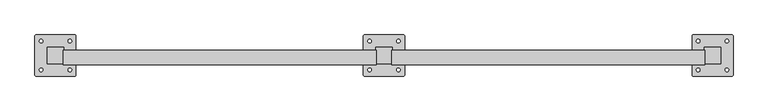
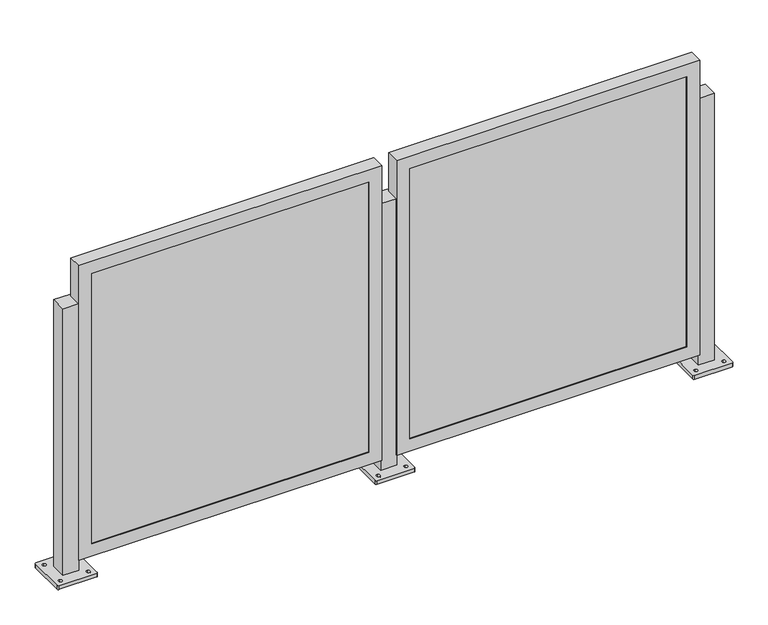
"""IFC4 building model written with IfcOpenShell, lengths in millimetres: railing geometry."""

from ifc_helpers import new_model, si_unit, frame, origin, place, context, project, spatial, polyline, circle_curve, outline, extrude, faceted_brep, source, transform, mapped, element, save
from ifc_brep_helpers import plane_surface, cylinder_surface, revolved_surface, advanced_brep


def railing_f4ae32ae(model_context):
    return source(origin(), model_context, "Body", "SolidModel", [
        advanced_brep(
        [(-11254.5258502, -853.9049816, 914.4), (-11254.5258502, -904.7049816, 914.4), (-11203.7258502, -904.7049816, 914.4), (-11203.7258502, -853.9049816, 914.4), (-11292.6258503, -939.6299405, 0.0), (-11292.6258503, -818.9800226, 0.0), (-11289.4508222, -815.8049944, 0.0), (-11168.8008782, -815.8049944, 0.0), (-11165.62585, -818.9800226, 0.0), (-11165.62585, -939.6299405, 0.0), (-11168.8008782, -942.8049687, 0.0), (-11289.4508222, -942.8049687, 0.0), (-11273.5758377, -929.3112362, 0.0), (-11273.5758377, -918.1987238, 0.0), (-11273.5758486, -840.4112318, 0.0), (-11273.5758486, -829.2987502, 0.0), (-11184.6758368, -929.3112347, 0.0), (-11184.6758368, -918.198724, 0.0), (-11184.6758477, -840.4112303, 0.0), (-11184.6758477, -829.2987505, 0.0), (-11254.5258502, -853.9049816, 12.7), (-11254.5258502, -904.7049816, 12.7), (-11203.7258502, -904.7049816, 12.7), (-11203.7258502, -853.9049816, 12.7), (-11292.6258503, -939.6299405, 12.7), (-11289.4508222, -942.8049687, 12.7), (-11168.8008782, -942.8049687, 12.7), (-11165.62585, -939.6299405, 12.7), (-11165.62585, -818.9800226, 12.7), (-11168.8008782, -815.8049944, 12.7), (-11289.4508222, -815.8049944, 12.7), (-11292.6258503, -818.9800226, 12.7), (-11273.5758377, -929.3112362, 12.7), (-11273.5758377, -918.1987238, 12.7), (-11273.5758486, -840.4112318, 12.7), (-11273.5758486, -829.2987502, 12.7), (-11184.6758368, -929.3112347, 12.7), (-11184.6758368, -918.198724, 12.7), (-11184.6758477, -840.4112303, 12.7), (-11184.6758477, -829.2987505, 12.7)],
        [
            (0, 1),
            (1, 2),
            (2, 3),
            (3, 0),
            (4, 5),
            (5, 6, circle_curve(frame((-11289.4508222, -818.9800226, 0.0), z_axis=(0.0, 0.0, -1.0), x_axis=(0.0, 1.0, 0.0)), 3.1750282)),
            (6, 7),
            (7, 8, circle_curve(frame((-11168.8008782, -818.9800226, 0.0), z_axis=(0.0, 0.0, -1.0), x_axis=(0.0, 1.0, 0.0)), 3.1750282)),
            (8, 9),
            (9, 10, circle_curve(frame((-11168.8008782, -939.6299405, 0.0), z_axis=(0.0, 0.0, -1.0), x_axis=(0.0, 1.0, 0.0)), 3.1750282)),
            (10, 11),
            (11, 4, circle_curve(frame((-11289.4508222, -939.6299405, 0.0), z_axis=(0.0, 0.0, -1.0), x_axis=(0.0, 1.0, 0.0)), 3.1750282)),
            (12, 13, circle_curve(frame((-11273.5758377, -923.75498, 0.0), z_axis=(0.0, 0.0, 1.0), x_axis=(0.0, 1.0, 0.0)), 5.5562562)),
            (13, 12, circle_curve(frame((-11273.5758377, -923.75498, 0.0), z_axis=(0.0, 0.0, 1.0), x_axis=(0.0, 1.0, 0.0)), 5.5562562)),
            (14, 15, circle_curve(frame((-11273.5758486, -834.854991, 0.0), z_axis=(0.0, 0.0, 1.0), x_axis=(0.0, 1.0, 0.0)), 5.5562408)),
            (15, 14, circle_curve(frame((-11273.5758486, -834.854991, 0.0), z_axis=(0.0, 0.0, 1.0), x_axis=(0.0, 1.0, 0.0)), 5.5562408)),
            (16, 17, circle_curve(frame((-11184.6758368, -923.7549793, 0.0), z_axis=(0.0, 0.0, 1.0), x_axis=(0.0, 1.0, 0.0)), 5.5562553)),
            (17, 16, circle_curve(frame((-11184.6758368, -923.7549793, 0.0), z_axis=(0.0, 0.0, 1.0), x_axis=(0.0, 1.0, 0.0)), 5.5562553)),
            (18, 19, circle_curve(frame((-11184.6758477, -834.8549904, 0.0), z_axis=(0.0, 0.0, 1.0), x_axis=(0.0, 1.0, 0.0)), 5.5562399)),
            (19, 18, circle_curve(frame((-11184.6758477, -834.8549904, 0.0), z_axis=(0.0, 0.0, 1.0), x_axis=(0.0, 1.0, 0.0)), 5.5562399)),
            (0, 20),
            (20, 21),
            (21, 1),
            (21, 22),
            (22, 2),
            (22, 23),
            (23, 3),
            (23, 20),
            (24, 25, circle_curve(frame((-11289.4508222, -939.6299405, 12.7), z_axis=(0.0, 0.0, 1.0), x_axis=(0.0, 1.0, 0.0)), 3.1750282)),
            (25, 26),
            (26, 27, circle_curve(frame((-11168.8008782, -939.6299405, 12.7), z_axis=(0.0, 0.0, 1.0), x_axis=(0.0, 1.0, 0.0)), 3.1750282)),
            (27, 28),
            (28, 29, circle_curve(frame((-11168.8008782, -818.9800226, 12.7), z_axis=(0.0, 0.0, 1.0), x_axis=(0.0, 1.0, 0.0)), 3.1750282)),
            (29, 30),
            (30, 31, circle_curve(frame((-11289.4508222, -818.9800226, 12.7), z_axis=(0.0, 0.0, 1.0), x_axis=(0.0, 1.0, 0.0)), 3.1750282)),
            (31, 24),
            (32, 33, circle_curve(frame((-11273.5758377, -923.75498, 12.7), z_axis=(0.0, 0.0, -1.0), x_axis=(0.0, 1.0, 0.0)), 5.5562562)),
            (33, 32, circle_curve(frame((-11273.5758377, -923.75498, 12.7), z_axis=(0.0, 0.0, -1.0), x_axis=(0.0, 1.0, 0.0)), 5.5562562)),
            (34, 35, circle_curve(frame((-11273.5758486, -834.854991, 12.7), z_axis=(0.0, 0.0, -1.0), x_axis=(0.0, 1.0, 0.0)), 5.5562408)),
            (35, 34, circle_curve(frame((-11273.5758486, -834.854991, 12.7), z_axis=(0.0, 0.0, -1.0), x_axis=(0.0, 1.0, 0.0)), 5.5562408)),
            (36, 37, circle_curve(frame((-11184.6758368, -923.7549793, 12.7), z_axis=(0.0, 0.0, -1.0), x_axis=(0.0, 1.0, 0.0)), 5.5562553)),
            (37, 36, circle_curve(frame((-11184.6758368, -923.7549793, 12.7), z_axis=(0.0, 0.0, -1.0), x_axis=(0.0, 1.0, 0.0)), 5.5562553)),
            (38, 39, circle_curve(frame((-11184.6758477, -834.8549904, 12.7), z_axis=(0.0, 0.0, -1.0), x_axis=(0.0, 1.0, 0.0)), 5.5562399)),
            (39, 38, circle_curve(frame((-11184.6758477, -834.8549904, 12.7), z_axis=(0.0, 0.0, -1.0), x_axis=(0.0, 1.0, 0.0)), 5.5562399)),
            (24, 4),
            (11, 25),
            (10, 26),
            (9, 27),
            (8, 28),
            (7, 29),
            (6, 30),
            (5, 31),
            (32, 12),
            (13, 33),
            (34, 14),
            (15, 35),
            (36, 16),
            (17, 37),
            (38, 18),
            (19, 39),
        ],
        [
            plane_surface(frame((-11254.5258502, -904.7049816, 914.4), z_axis=(0.0, 0.0, 1.0), x_axis=(0.0, -1.0, 0.0))),
            plane_surface(frame((-11254.5258502, -904.7049816, 0.0), z_axis=(0.0, 0.0, -1.0), x_axis=(0.0, 1.0, 0.0))),
            plane_surface(frame((-11254.5258502, -853.9049816, 914.4), z_axis=(-1.0, 0.0, 0.0), x_axis=(0.0, 0.0, -1.0))),
            plane_surface(frame((-11254.5258502, -904.7049816, 914.4), z_axis=(0.0, -1.0, 0.0), x_axis=(0.0, 0.0, -1.0))),
            plane_surface(frame((-11203.7258502, -904.7049816, 914.4), z_axis=(1.0, 0.0, 0.0), x_axis=(0.0, 0.0, -1.0))),
            plane_surface(frame((-11203.7258502, -853.9049816, 914.4), z_axis=(0.0, 1.0, 0.0), x_axis=(0.0, 0.0, -1.0))),
            plane_surface(frame((-11289.4508222, -936.4549124, 12.7), z_axis=(0.0, 0.0, 1.0), x_axis=(-1.0, 0.0, 0.0))),
            cylinder_surface(frame((-11289.4508222, -939.6299405, 0.0), z_axis=(0.0, 0.0, 1.0), x_axis=(0.0, 1.0, 0.0)), 3.1750282),
            plane_surface(frame((-11289.4508222, -942.8049687, 12.7), z_axis=(1.1945386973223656e-12, -1.0, 0.0), x_axis=(0.0, 0.0, -1.0))),
            cylinder_surface(frame((-11168.8008782, -939.6299405, 0.0), z_axis=(0.0, 0.0, 1.0), x_axis=(0.0, 1.0, 0.0)), 3.1750282),
            plane_surface(frame((-11165.62585, -939.6299405, 12.7), z_axis=(1.0, 0.0, 0.0), x_axis=(0.0, 0.0, -1.0))),
            cylinder_surface(frame((-11168.8008782, -818.9800226, 0.0), z_axis=(0.0, 0.0, 1.0), x_axis=(0.0, 1.0, 0.0)), 3.1750282),
            plane_surface(frame((-11168.8008782, -815.8049944, 12.7), z_axis=(-1.1946088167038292e-12, 1.0, 0.0), x_axis=(0.0, 0.0, -1.0))),
            cylinder_surface(frame((-11289.4508222, -818.9800226, 0.0), z_axis=(0.0, 0.0, 1.0), x_axis=(0.0, 1.0, 0.0)), 3.1750282),
            plane_surface(frame((-11292.6258503, -818.9800226, 12.7), z_axis=(-1.0, 0.0, 0.0), x_axis=(0.0, 0.0, -1.0))),
            revolved_surface(polyline([(-11273.5758377, -918.1987238, 0.0), (-11273.5758377, -918.1987238, 12.7)]), (-11273.5758377, -923.75498, 0.0), (0.0, 0.0, -1.0)),
            revolved_surface(polyline([(-11273.5758486, -829.2987502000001, 0.0), (-11273.5758486, -829.2987502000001, 12.7)]), (-11273.5758486, -834.854991, 0.0), (0.0, 0.0, -1.0)),
            revolved_surface(polyline([(-11184.6758368, -918.198724, 0.0), (-11184.6758368, -918.198724, 12.7)]), (-11184.6758368, -923.7549793, 0.0), (0.0, 0.0, -1.0)),
            revolved_surface(polyline([(-11184.6758477, -829.2987505, 0.0), (-11184.6758477, -829.2987505, 12.7)]), (-11184.6758477, -834.8549904, 0.0), (0.0, 0.0, -1.0)),
        ],
        [
            (0, [[1, 2, 3, 4]]),
            (1, [[5, 6, 7, 8, 9, 10, 11, 12], [13, 14], [15, 16], [17, 18], [19, 20]]),
            (2, [[-1, 21, 22, 23]]),
            (3, [[-2, -23, 24, 25]]),
            (4, [[-3, -25, 26, 27]]),
            (5, [[-4, -27, 28, -21]]),
            (6, [[29, 30, 31, 32, 33, 34, 35, 36], [-22, -28, -26, -24], [37, 38], [39, 40], [41, 42], [43, 44]]),
            (7, [[-29, 45, -12, 46]]),
            (8, [[-30, -46, -11, 47]]),
            (9, [[-31, -47, -10, 48]]),
            (10, [[-32, -48, -9, 49]]),
            (11, [[-33, -49, -8, 50]]),
            (12, [[-34, -50, -7, 51]]),
            (13, [[-35, -51, -6, 52]]),
            (14, [[-36, -52, -5, -45]]),
            (15, [[-37, 53, -14, 54]]),
            (15, [[-38, -54, -13, -53]]),
            (16, [[-39, 55, -16, 56]]),
            (16, [[-40, -56, -15, -55]]),
            (17, [[-41, 57, -18, 58]]),
            (17, [[-42, -58, -17, -57]]),
            (18, [[-43, 59, -20, 60]]),
            (18, [[-44, -60, -19, -59]]),
        ],
    ),
        faceted_brep([(-12220.9303036, -907.4481816, 47.625), (-11252.5553036, -907.4481816, 47.625), (-11252.5553036, -907.4481816, 1044.575), (-12220.9303036, -907.4481816, 1044.575), (-12179.6553036, -907.4481816, 1003.3), (-11293.8303036, -907.4481816, 1003.3), (-11293.8303036, -907.4481816, 88.9), (-12179.6553036, -907.4481816, 88.9), (-12179.6553036, -904.7049816, 1003.3), (-12179.6553036, -904.7049816, 88.9), (-12220.9303036, -863.574885, 1044.575), (-12220.9303036, -863.574885, 47.625), (-12217.7553036, -863.574885, 1041.4), (-12217.7553036, -904.7049816, 1041.4), (-12217.7553036, -904.7049816, 50.8), (-12217.7553036, -863.574885, 50.8), (-11293.8303036, -904.7049816, 88.9), (-11252.5553036, -863.574885, 47.625), (-11255.7303036, -904.7049816, 50.8), (-11255.7303036, -863.574885, 50.8), (-11293.8303036, -904.7049816, 1003.3), (-11252.5553036, -863.574885, 1044.575), (-11255.7303036, -904.7049816, 1041.4), (-11255.7303036, -863.574885, 1041.4)], [[[0, 1, 2, 3], [4, 5, 6, 7]], [[8, 4, 7, 9]], [[3, 10, 11, 0]], [[12, 13, 14, 15]], [[9, 7, 6, 16]], [[0, 11, 17, 1]], [[15, 14, 18, 19]], [[16, 6, 5, 20]], [[1, 17, 21, 2]], [[19, 18, 22, 23]], [[20, 5, 4, 8]], [[10, 21, 17, 11], [15, 19, 23, 12]], [[2, 21, 10, 3]], [[13, 22, 18, 14], [9, 16, 20, 8]], [[23, 22, 13, 12]]]),
        extrude(outline(polyline([(-12217.7553036, -895.1799816), (-11255.7303036, -895.1799816), (-11255.7303036, -904.7049816), (-12217.7553036, -904.7049816), (-12217.7553036, -895.1799816)])), frame((0.0, 0.0, 50.8), z_axis=(0.0, 0.0, 1.0), x_axis=(1.0, 0.0, 0.0)), (0.0, 0.0, 1.0), 990.6),
        advanced_brep(
        [(-12270.5258502, -853.9049816, 914.4), (-12270.5258502, -904.7049816, 914.4), (-12219.7258502, -904.7049816, 914.4), (-12219.7258502, -853.9049816, 914.4), (-12308.6258503, -939.6299405, 0.0), (-12308.6258503, -818.9800226, 0.0), (-12305.4508222, -815.8049944, 0.0), (-12184.8008782, -815.8049944, 0.0), (-12181.62585, -818.9800226, 0.0), (-12181.62585, -939.6299405, 0.0), (-12184.8008782, -942.8049687, 0.0), (-12305.4508222, -942.8049687, 0.0), (-12289.5758377, -929.3112362, 0.0), (-12289.5758377, -918.1987238, 0.0), (-12289.5758486, -840.4112318, 0.0), (-12289.5758486, -829.2987502, 0.0), (-12200.6758368, -929.3112347, 0.0), (-12200.6758368, -918.198724, 0.0), (-12200.6758477, -840.4112303, 0.0), (-12200.6758477, -829.2987505, 0.0), (-12270.5258502, -853.9049816, 12.7), (-12270.5258502, -904.7049816, 12.7), (-12219.7258502, -904.7049816, 12.7), (-12219.7258502, -853.9049816, 12.7), (-12308.6258503, -939.6299405, 12.7), (-12305.4508222, -942.8049687, 12.7), (-12184.8008782, -942.8049687, 12.7), (-12181.62585, -939.6299405, 12.7), (-12181.62585, -818.9800226, 12.7), (-12184.8008782, -815.8049944, 12.7), (-12305.4508222, -815.8049944, 12.7), (-12308.6258503, -818.9800226, 12.7), (-12289.5758377, -929.3112362, 12.7), (-12289.5758377, -918.1987238, 12.7), (-12289.5758486, -840.4112318, 12.7), (-12289.5758486, -829.2987502, 12.7), (-12200.6758368, -929.3112347, 12.7), (-12200.6758368, -918.198724, 12.7), (-12200.6758477, -840.4112303, 12.7), (-12200.6758477, -829.2987505, 12.7)],
        [
            (0, 1),
            (1, 2),
            (2, 3),
            (3, 0),
            (4, 5),
            (5, 6, circle_curve(frame((-12305.4508222, -818.9800226, 0.0), z_axis=(0.0, 0.0, -1.0), x_axis=(0.0, 1.0, 0.0)), 3.1750282)),
            (6, 7),
            (7, 8, circle_curve(frame((-12184.8008782, -818.9800226, 0.0), z_axis=(0.0, 0.0, -1.0), x_axis=(0.0, 1.0, 0.0)), 3.1750282)),
            (8, 9),
            (9, 10, circle_curve(frame((-12184.8008782, -939.6299405, 0.0), z_axis=(0.0, 0.0, -1.0), x_axis=(0.0, 1.0, 0.0)), 3.1750282)),
            (10, 11),
            (11, 4, circle_curve(frame((-12305.4508222, -939.6299405, 0.0), z_axis=(0.0, 0.0, -1.0), x_axis=(0.0, 1.0, 0.0)), 3.1750282)),
            (12, 13, circle_curve(frame((-12289.5758377, -923.75498, 0.0), z_axis=(0.0, 0.0, 1.0), x_axis=(0.0, 1.0, 0.0)), 5.5562562)),
            (13, 12, circle_curve(frame((-12289.5758377, -923.75498, 0.0), z_axis=(0.0, 0.0, 1.0), x_axis=(0.0, 1.0, 0.0)), 5.5562562)),
            (14, 15, circle_curve(frame((-12289.5758486, -834.854991, 0.0), z_axis=(0.0, 0.0, 1.0), x_axis=(0.0, 1.0, 0.0)), 5.5562408)),
            (15, 14, circle_curve(frame((-12289.5758486, -834.854991, 0.0), z_axis=(0.0, 0.0, 1.0), x_axis=(0.0, 1.0, 0.0)), 5.5562408)),
            (16, 17, circle_curve(frame((-12200.6758368, -923.7549793, 0.0), z_axis=(0.0, 0.0, 1.0), x_axis=(0.0, 1.0, 0.0)), 5.5562553)),
            (17, 16, circle_curve(frame((-12200.6758368, -923.7549793, 0.0), z_axis=(0.0, 0.0, 1.0), x_axis=(0.0, 1.0, 0.0)), 5.5562553)),
            (18, 19, circle_curve(frame((-12200.6758477, -834.8549904, 0.0), z_axis=(0.0, 0.0, 1.0), x_axis=(0.0, 1.0, 0.0)), 5.5562399)),
            (19, 18, circle_curve(frame((-12200.6758477, -834.8549904, 0.0), z_axis=(0.0, 0.0, 1.0), x_axis=(0.0, 1.0, 0.0)), 5.5562399)),
            (0, 20),
            (20, 21),
            (21, 1),
            (21, 22),
            (22, 2),
            (22, 23),
            (23, 3),
            (23, 20),
            (24, 25, circle_curve(frame((-12305.4508222, -939.6299405, 12.7), z_axis=(0.0, 0.0, 1.0), x_axis=(0.0, 1.0, 0.0)), 3.1750282)),
            (25, 26),
            (26, 27, circle_curve(frame((-12184.8008782, -939.6299405, 12.7), z_axis=(0.0, 0.0, 1.0), x_axis=(0.0, 1.0, 0.0)), 3.1750282)),
            (27, 28),
            (28, 29, circle_curve(frame((-12184.8008782, -818.9800226, 12.7), z_axis=(0.0, 0.0, 1.0), x_axis=(0.0, 1.0, 0.0)), 3.1750282)),
            (29, 30),
            (30, 31, circle_curve(frame((-12305.4508222, -818.9800226, 12.7), z_axis=(0.0, 0.0, 1.0), x_axis=(0.0, 1.0, 0.0)), 3.1750282)),
            (31, 24),
            (32, 33, circle_curve(frame((-12289.5758377, -923.75498, 12.7), z_axis=(0.0, 0.0, -1.0), x_axis=(0.0, 1.0, 0.0)), 5.5562562)),
            (33, 32, circle_curve(frame((-12289.5758377, -923.75498, 12.7), z_axis=(0.0, 0.0, -1.0), x_axis=(0.0, 1.0, 0.0)), 5.5562562)),
            (34, 35, circle_curve(frame((-12289.5758486, -834.854991, 12.7), z_axis=(0.0, 0.0, -1.0), x_axis=(0.0, 1.0, 0.0)), 5.5562408)),
            (35, 34, circle_curve(frame((-12289.5758486, -834.854991, 12.7), z_axis=(0.0, 0.0, -1.0), x_axis=(0.0, 1.0, 0.0)), 5.5562408)),
            (36, 37, circle_curve(frame((-12200.6758368, -923.7549793, 12.7), z_axis=(0.0, 0.0, -1.0), x_axis=(0.0, 1.0, 0.0)), 5.5562553)),
            (37, 36, circle_curve(frame((-12200.6758368, -923.7549793, 12.7), z_axis=(0.0, 0.0, -1.0), x_axis=(0.0, 1.0, 0.0)), 5.5562553)),
            (38, 39, circle_curve(frame((-12200.6758477, -834.8549904, 12.7), z_axis=(0.0, 0.0, -1.0), x_axis=(0.0, 1.0, 0.0)), 5.5562399)),
            (39, 38, circle_curve(frame((-12200.6758477, -834.8549904, 12.7), z_axis=(0.0, 0.0, -1.0), x_axis=(0.0, 1.0, 0.0)), 5.5562399)),
            (24, 4),
            (11, 25),
            (10, 26),
            (9, 27),
            (8, 28),
            (7, 29),
            (6, 30),
            (5, 31),
            (32, 12),
            (13, 33),
            (34, 14),
            (15, 35),
            (36, 16),
            (17, 37),
            (38, 18),
            (19, 39),
        ],
        [
            plane_surface(frame((-12270.5258502, -904.7049816, 914.4), z_axis=(0.0, 0.0, 1.0), x_axis=(0.0, -1.0, 0.0))),
            plane_surface(frame((-12270.5258502, -904.7049816, 0.0), z_axis=(0.0, 0.0, -1.0), x_axis=(0.0, 1.0, 0.0))),
            plane_surface(frame((-12270.5258502, -853.9049816, 914.4), z_axis=(-1.0, 0.0, 0.0), x_axis=(0.0, 0.0, -1.0))),
            plane_surface(frame((-12270.5258502, -904.7049816, 914.4), z_axis=(0.0, -1.0, 0.0), x_axis=(0.0, 0.0, -1.0))),
            plane_surface(frame((-12219.7258502, -904.7049816, 914.4), z_axis=(1.0, 0.0, 0.0), x_axis=(0.0, 0.0, -1.0))),
            plane_surface(frame((-12219.7258502, -853.9049816, 914.4), z_axis=(0.0, 1.0, 0.0), x_axis=(0.0, 0.0, -1.0))),
            plane_surface(frame((-12305.4508222, -936.4549124, 12.7), z_axis=(0.0, 0.0, 1.0), x_axis=(-1.0, 0.0, 0.0))),
            cylinder_surface(frame((-12305.4508222, -939.6299405, 0.0), z_axis=(0.0, 0.0, 1.0), x_axis=(0.0, 1.0, 0.0)), 3.1750282),
            plane_surface(frame((-12305.4508222, -942.8049687, 12.7), z_axis=(1.1945386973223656e-12, -1.0, 0.0), x_axis=(0.0, 0.0, -1.0))),
            cylinder_surface(frame((-12184.8008782, -939.6299405, 0.0), z_axis=(0.0, 0.0, 1.0), x_axis=(0.0, 1.0, 0.0)), 3.1750282),
            plane_surface(frame((-12181.62585, -939.6299405, 12.7), z_axis=(1.0, 0.0, 0.0), x_axis=(0.0, 0.0, -1.0))),
            cylinder_surface(frame((-12184.8008782, -818.9800226, 0.0), z_axis=(0.0, 0.0, 1.0), x_axis=(0.0, 1.0, 0.0)), 3.1750282),
            plane_surface(frame((-12184.8008782, -815.8049944, 12.7), z_axis=(-1.1946088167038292e-12, 1.0, 0.0), x_axis=(0.0, 0.0, -1.0))),
            cylinder_surface(frame((-12305.4508222, -818.9800226, 0.0), z_axis=(0.0, 0.0, 1.0), x_axis=(0.0, 1.0, 0.0)), 3.1750282),
            plane_surface(frame((-12308.6258503, -818.9800226, 12.7), z_axis=(-1.0, 0.0, 0.0), x_axis=(0.0, 0.0, -1.0))),
            revolved_surface(polyline([(-12289.5758377, -918.1987238, 0.0), (-12289.5758377, -918.1987238, 12.7)]), (-12289.5758377, -923.75498, 0.0), (0.0, 0.0, -1.0)),
            revolved_surface(polyline([(-12289.5758486, -829.2987502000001, 0.0), (-12289.5758486, -829.2987502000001, 12.7)]), (-12289.5758486, -834.854991, 0.0), (0.0, 0.0, -1.0)),
            revolved_surface(polyline([(-12200.6758368, -918.198724, 0.0), (-12200.6758368, -918.198724, 12.7)]), (-12200.6758368, -923.7549793, 0.0), (0.0, 0.0, -1.0)),
            revolved_surface(polyline([(-12200.6758477, -829.2987505, 0.0), (-12200.6758477, -829.2987505, 12.7)]), (-12200.6758477, -834.8549904, 0.0), (0.0, 0.0, -1.0)),
        ],
        [
            (0, [[1, 2, 3, 4]]),
            (1, [[5, 6, 7, 8, 9, 10, 11, 12], [13, 14], [15, 16], [17, 18], [19, 20]]),
            (2, [[-1, 21, 22, 23]]),
            (3, [[-2, -23, 24, 25]]),
            (4, [[-3, -25, 26, 27]]),
            (5, [[-4, -27, 28, -21]]),
            (6, [[29, 30, 31, 32, 33, 34, 35, 36], [-22, -28, -26, -24], [37, 38], [39, 40], [41, 42], [43, 44]]),
            (7, [[-29, 45, -12, 46]]),
            (8, [[-30, -46, -11, 47]]),
            (9, [[-31, -47, -10, 48]]),
            (10, [[-32, -48, -9, 49]]),
            (11, [[-33, -49, -8, 50]]),
            (12, [[-34, -50, -7, 51]]),
            (13, [[-35, -51, -6, 52]]),
            (14, [[-36, -52, -5, -45]]),
            (15, [[-37, 53, -14, 54]]),
            (15, [[-38, -54, -13, -53]]),
            (16, [[-39, 55, -16, 56]]),
            (16, [[-40, -56, -15, -55]]),
            (17, [[-41, 57, -18, 58]]),
            (17, [[-42, -58, -17, -57]]),
            (18, [[-43, 59, -20, 60]]),
            (18, [[-44, -60, -19, -59]]),
        ],
    ),
        faceted_brep([(-13236.9303036, -907.4481816, 47.625), (-12268.5553036, -907.4481816, 47.625), (-12268.5553036, -907.4481816, 1044.575), (-13236.9303036, -907.4481816, 1044.575), (-13195.6553036, -907.4481816, 1003.3), (-12309.8303036, -907.4481816, 1003.3), (-12309.8303036, -907.4481816, 88.9), (-13195.6553036, -907.4481816, 88.9), (-13195.6553036, -904.7049816, 1003.3), (-13195.6553036, -904.7049816, 88.9), (-13236.9303036, -863.574885, 1044.575), (-13236.9303036, -863.574885, 47.625), (-13233.7553036, -863.574885, 1041.4), (-13233.7553036, -904.7049816, 1041.4), (-13233.7553036, -904.7049816, 50.8), (-13233.7553036, -863.574885, 50.8), (-12309.8303036, -904.7049816, 88.9), (-12268.5553036, -863.574885, 47.625), (-12271.7303036, -904.7049816, 50.8), (-12271.7303036, -863.574885, 50.8), (-12309.8303036, -904.7049816, 1003.3), (-12268.5553036, -863.574885, 1044.575), (-12271.7303036, -904.7049816, 1041.4), (-12271.7303036, -863.574885, 1041.4)], [[[0, 1, 2, 3], [4, 5, 6, 7]], [[8, 4, 7, 9]], [[3, 10, 11, 0]], [[12, 13, 14, 15]], [[9, 7, 6, 16]], [[0, 11, 17, 1]], [[15, 14, 18, 19]], [[16, 6, 5, 20]], [[1, 17, 21, 2]], [[19, 18, 22, 23]], [[20, 5, 4, 8]], [[10, 21, 17, 11], [15, 19, 23, 12]], [[2, 21, 10, 3]], [[13, 22, 18, 14], [9, 16, 20, 8]], [[23, 22, 13, 12]]]),
        extrude(outline(polyline([(-13233.7553036, -895.1799816), (-12271.7303036, -895.1799816), (-12271.7303036, -904.7049816), (-13233.7553036, -904.7049816), (-13233.7553036, -895.1799816)])), frame((0.0, 0.0, 50.8), z_axis=(0.0, 0.0, 1.0), x_axis=(1.0, 0.0, 0.0)), (0.0, 0.0, 1.0), 990.6),
        advanced_brep(
        [(-13286.5258502, -853.9049816, 914.4), (-13286.5258502, -904.7049816, 914.4), (-13235.7258502, -904.7049816, 914.4), (-13235.7258502, -853.9049816, 914.4), (-13324.6258503, -939.6299405, 0.0), (-13324.6258503, -818.9800226, 0.0), (-13321.4508222, -815.8049944, 0.0), (-13200.8008782, -815.8049944, 0.0), (-13197.62585, -818.9800226, 0.0), (-13197.62585, -939.6299405, 0.0), (-13200.8008782, -942.8049687, 0.0), (-13321.4508222, -942.8049687, 0.0), (-13305.5758377, -929.3112362, 0.0), (-13305.5758377, -918.1987238, 0.0), (-13305.5758486, -840.4112318, 0.0), (-13305.5758486, -829.2987502, 0.0), (-13216.6758368, -929.3112347, 0.0), (-13216.6758368, -918.198724, 0.0), (-13216.6758477, -840.4112303, 0.0), (-13216.6758477, -829.2987505, 0.0), (-13286.5258502, -853.9049816, 12.7), (-13286.5258502, -904.7049816, 12.7), (-13235.7258502, -904.7049816, 12.7), (-13235.7258502, -853.9049816, 12.7), (-13324.6258503, -939.6299405, 12.7), (-13321.4508222, -942.8049687, 12.7), (-13200.8008782, -942.8049687, 12.7), (-13197.62585, -939.6299405, 12.7), (-13197.62585, -818.9800226, 12.7), (-13200.8008782, -815.8049944, 12.7), (-13321.4508222, -815.8049944, 12.7), (-13324.6258503, -818.9800226, 12.7), (-13305.5758377, -929.3112362, 12.7), (-13305.5758377, -918.1987238, 12.7), (-13305.5758486, -840.4112318, 12.7), (-13305.5758486, -829.2987502, 12.7), (-13216.6758368, -929.3112347, 12.7), (-13216.6758368, -918.198724, 12.7), (-13216.6758477, -840.4112303, 12.7), (-13216.6758477, -829.2987505, 12.7)],
        [
            (0, 1),
            (1, 2),
            (2, 3),
            (3, 0),
            (4, 5),
            (5, 6, circle_curve(frame((-13321.4508222, -818.9800226, 0.0), z_axis=(0.0, 0.0, -1.0), x_axis=(0.0, 1.0, 0.0)), 3.1750282)),
            (6, 7),
            (7, 8, circle_curve(frame((-13200.8008782, -818.9800226, 0.0), z_axis=(0.0, 0.0, -1.0), x_axis=(0.0, 1.0, 0.0)), 3.1750282)),
            (8, 9),
            (9, 10, circle_curve(frame((-13200.8008782, -939.6299405, 0.0), z_axis=(0.0, 0.0, -1.0), x_axis=(0.0, 1.0, 0.0)), 3.1750282)),
            (10, 11),
            (11, 4, circle_curve(frame((-13321.4508222, -939.6299405, 0.0), z_axis=(0.0, 0.0, -1.0), x_axis=(0.0, 1.0, 0.0)), 3.1750282)),
            (12, 13, circle_curve(frame((-13305.5758377, -923.75498, 0.0), z_axis=(0.0, 0.0, 1.0), x_axis=(0.0, 1.0, 0.0)), 5.5562562)),
            (13, 12, circle_curve(frame((-13305.5758377, -923.75498, 0.0), z_axis=(0.0, 0.0, 1.0), x_axis=(0.0, 1.0, 0.0)), 5.5562562)),
            (14, 15, circle_curve(frame((-13305.5758486, -834.854991, 0.0), z_axis=(0.0, 0.0, 1.0), x_axis=(0.0, 1.0, 0.0)), 5.5562408)),
            (15, 14, circle_curve(frame((-13305.5758486, -834.854991, 0.0), z_axis=(0.0, 0.0, 1.0), x_axis=(0.0, 1.0, 0.0)), 5.5562408)),
            (16, 17, circle_curve(frame((-13216.6758368, -923.7549793, 0.0), z_axis=(0.0, 0.0, 1.0), x_axis=(0.0, 1.0, 0.0)), 5.5562553)),
            (17, 16, circle_curve(frame((-13216.6758368, -923.7549793, 0.0), z_axis=(0.0, 0.0, 1.0), x_axis=(0.0, 1.0, 0.0)), 5.5562553)),
            (18, 19, circle_curve(frame((-13216.6758477, -834.8549904, 0.0), z_axis=(0.0, 0.0, 1.0), x_axis=(0.0, 1.0, 0.0)), 5.5562399)),
            (19, 18, circle_curve(frame((-13216.6758477, -834.8549904, 0.0), z_axis=(0.0, 0.0, 1.0), x_axis=(0.0, 1.0, 0.0)), 5.5562399)),
            (0, 20),
            (20, 21),
            (21, 1),
            (21, 22),
            (22, 2),
            (22, 23),
            (23, 3),
            (23, 20),
            (24, 25, circle_curve(frame((-13321.4508222, -939.6299405, 12.7), z_axis=(0.0, 0.0, 1.0), x_axis=(0.0, 1.0, 0.0)), 3.1750282)),
            (25, 26),
            (26, 27, circle_curve(frame((-13200.8008782, -939.6299405, 12.7), z_axis=(0.0, 0.0, 1.0), x_axis=(0.0, 1.0, 0.0)), 3.1750282)),
            (27, 28),
            (28, 29, circle_curve(frame((-13200.8008782, -818.9800226, 12.7), z_axis=(0.0, 0.0, 1.0), x_axis=(0.0, 1.0, 0.0)), 3.1750282)),
            (29, 30),
            (30, 31, circle_curve(frame((-13321.4508222, -818.9800226, 12.7), z_axis=(0.0, 0.0, 1.0), x_axis=(0.0, 1.0, 0.0)), 3.1750282)),
            (31, 24),
            (32, 33, circle_curve(frame((-13305.5758377, -923.75498, 12.7), z_axis=(0.0, 0.0, -1.0), x_axis=(0.0, 1.0, 0.0)), 5.5562562)),
            (33, 32, circle_curve(frame((-13305.5758377, -923.75498, 12.7), z_axis=(0.0, 0.0, -1.0), x_axis=(0.0, 1.0, 0.0)), 5.5562562)),
            (34, 35, circle_curve(frame((-13305.5758486, -834.854991, 12.7), z_axis=(0.0, 0.0, -1.0), x_axis=(0.0, 1.0, 0.0)), 5.5562408)),
            (35, 34, circle_curve(frame((-13305.5758486, -834.854991, 12.7), z_axis=(0.0, 0.0, -1.0), x_axis=(0.0, 1.0, 0.0)), 5.5562408)),
            (36, 37, circle_curve(frame((-13216.6758368, -923.7549793, 12.7), z_axis=(0.0, 0.0, -1.0), x_axis=(0.0, 1.0, 0.0)), 5.5562553)),
            (37, 36, circle_curve(frame((-13216.6758368, -923.7549793, 12.7), z_axis=(0.0, 0.0, -1.0), x_axis=(0.0, 1.0, 0.0)), 5.5562553)),
            (38, 39, circle_curve(frame((-13216.6758477, -834.8549904, 12.7), z_axis=(0.0, 0.0, -1.0), x_axis=(0.0, 1.0, 0.0)), 5.5562399)),
            (39, 38, circle_curve(frame((-13216.6758477, -834.8549904, 12.7), z_axis=(0.0, 0.0, -1.0), x_axis=(0.0, 1.0, 0.0)), 5.5562399)),
            (24, 4),
            (11, 25),
            (10, 26),
            (9, 27),
            (8, 28),
            (7, 29),
            (6, 30),
            (5, 31),
            (32, 12),
            (13, 33),
            (34, 14),
            (15, 35),
            (36, 16),
            (17, 37),
            (38, 18),
            (19, 39),
        ],
        [
            plane_surface(frame((-13286.5258502, -904.7049816, 914.4), z_axis=(0.0, 0.0, 1.0), x_axis=(0.0, -1.0, 0.0))),
            plane_surface(frame((-13286.5258502, -904.7049816, 0.0), z_axis=(0.0, 0.0, -1.0), x_axis=(0.0, 1.0, 0.0))),
            plane_surface(frame((-13286.5258502, -853.9049816, 914.4), z_axis=(-1.0, 0.0, 0.0), x_axis=(0.0, 0.0, -1.0))),
            plane_surface(frame((-13286.5258502, -904.7049816, 914.4), z_axis=(0.0, -1.0, 0.0), x_axis=(0.0, 0.0, -1.0))),
            plane_surface(frame((-13235.7258502, -904.7049816, 914.4), z_axis=(1.0, 0.0, 0.0), x_axis=(0.0, 0.0, -1.0))),
            plane_surface(frame((-13235.7258502, -853.9049816, 914.4), z_axis=(0.0, 1.0, 0.0), x_axis=(0.0, 0.0, -1.0))),
            plane_surface(frame((-13321.4508222, -936.4549124, 12.7), z_axis=(0.0, 0.0, 1.0), x_axis=(-1.0, 0.0, 0.0))),
            cylinder_surface(frame((-13321.4508222, -939.6299405, 0.0), z_axis=(0.0, 0.0, 1.0), x_axis=(0.0, 1.0, 0.0)), 3.1750282),
            plane_surface(frame((-13321.4508222, -942.8049687, 12.7), z_axis=(1.1945386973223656e-12, -1.0, 0.0), x_axis=(0.0, 0.0, -1.0))),
            cylinder_surface(frame((-13200.8008782, -939.6299405, 0.0), z_axis=(0.0, 0.0, 1.0), x_axis=(0.0, 1.0, 0.0)), 3.1750282),
            plane_surface(frame((-13197.62585, -939.6299405, 12.7), z_axis=(1.0, 0.0, 0.0), x_axis=(0.0, 0.0, -1.0))),
            cylinder_surface(frame((-13200.8008782, -818.9800226, 0.0), z_axis=(0.0, 0.0, 1.0), x_axis=(0.0, 1.0, 0.0)), 3.1750282),
            plane_surface(frame((-13200.8008782, -815.8049944, 12.7), z_axis=(-1.1946088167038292e-12, 1.0, 0.0), x_axis=(0.0, 0.0, -1.0))),
            cylinder_surface(frame((-13321.4508222, -818.9800226, 0.0), z_axis=(0.0, 0.0, 1.0), x_axis=(0.0, 1.0, 0.0)), 3.1750282),
            plane_surface(frame((-13324.6258503, -818.9800226, 12.7), z_axis=(-1.0, 0.0, 0.0), x_axis=(0.0, 0.0, -1.0))),
            revolved_surface(polyline([(-13305.5758377, -918.1987238, 0.0), (-13305.5758377, -918.1987238, 12.7)]), (-13305.5758377, -923.75498, 0.0), (0.0, 0.0, -1.0)),
            revolved_surface(polyline([(-13305.5758486, -829.2987502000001, 0.0), (-13305.5758486, -829.2987502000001, 12.7)]), (-13305.5758486, -834.854991, 0.0), (0.0, 0.0, -1.0)),
            revolved_surface(polyline([(-13216.6758368, -918.198724, 0.0), (-13216.6758368, -918.198724, 12.7)]), (-13216.6758368, -923.7549793, 0.0), (0.0, 0.0, -1.0)),
            revolved_surface(polyline([(-13216.6758477, -829.2987505, 0.0), (-13216.6758477, -829.2987505, 12.7)]), (-13216.6758477, -834.8549904, 0.0), (0.0, 0.0, -1.0)),
        ],
        [
            (0, [[1, 2, 3, 4]]),
            (1, [[5, 6, 7, 8, 9, 10, 11, 12], [13, 14], [15, 16], [17, 18], [19, 20]]),
            (2, [[-1, 21, 22, 23]]),
            (3, [[-2, -23, 24, 25]]),
            (4, [[-3, -25, 26, 27]]),
            (5, [[-4, -27, 28, -21]]),
            (6, [[29, 30, 31, 32, 33, 34, 35, 36], [-22, -28, -26, -24], [37, 38], [39, 40], [41, 42], [43, 44]]),
            (7, [[-29, 45, -12, 46]]),
            (8, [[-30, -46, -11, 47]]),
            (9, [[-31, -47, -10, 48]]),
            (10, [[-32, -48, -9, 49]]),
            (11, [[-33, -49, -8, 50]]),
            (12, [[-34, -50, -7, 51]]),
            (13, [[-35, -51, -6, 52]]),
            (14, [[-36, -52, -5, -45]]),
            (15, [[-37, 53, -14, 54]]),
            (15, [[-38, -54, -13, -53]]),
            (16, [[-39, 55, -16, 56]]),
            (16, [[-40, -56, -15, -55]]),
            (17, [[-41, 57, -18, 58]]),
            (17, [[-42, -58, -17, -57]]),
            (18, [[-43, 59, -20, 60]]),
            (18, [[-44, -60, -19, -59]]),
        ],
    ),
    ])


if __name__ == "__main__":
    model = new_model("IFC4")
    model_context = context("Model", 3, world=origin())
    ifc_project = project(units=[si_unit("LENGTHUNIT", "METRE", prefix="MILLI")], contexts=[model_context])
    site = spatial("IfcSite", under=ifc_project)
    building = spatial("IfcBuilding", under=site)
    placement = place(None, origin())
    railing_shape = railing_f4ae32ae(model_context)
    element("IfcRailing", 1, ObjectType="Railing - Amico Architectural - Perforated Railing - 1/4\" Circle - 3/8\" Staggered", at=placement, inside=building, context=model_context, shape_type="MappedRepresentation", body=[
        mapped(railing_shape, transform((0.0, 0.0, 0.0), x_axis=(1.0, 0.0, 0.0), y_axis=(0.0, 1.0, 0.0), z_axis=(0.0, 0.0, 1.0))),
    ])
    save(model, "model.ifc")
